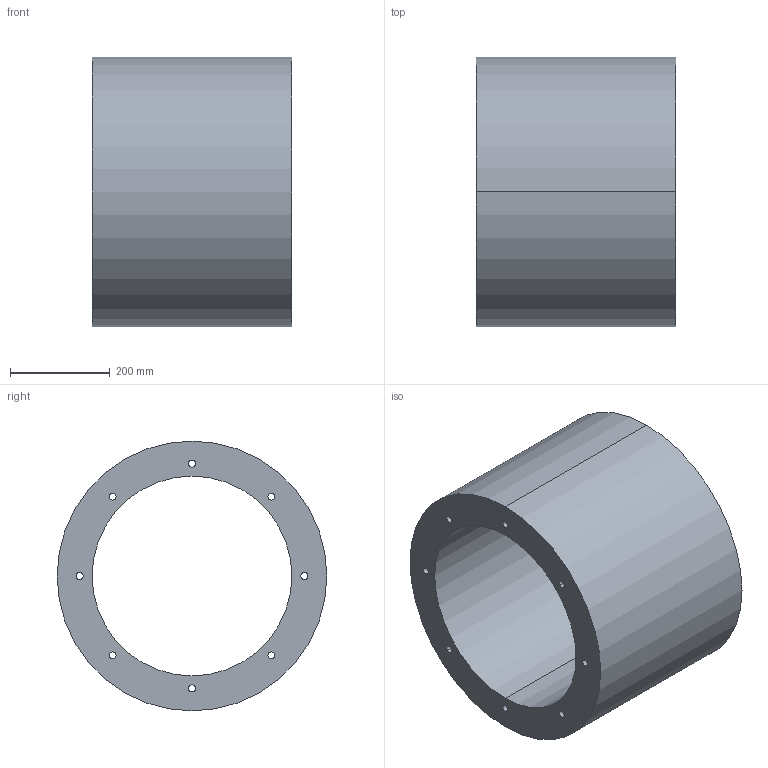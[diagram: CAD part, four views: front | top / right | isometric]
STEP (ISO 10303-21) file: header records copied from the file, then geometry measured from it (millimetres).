
FILE_DESCRIPTION(('STEP AP214'),'1');
FILE_NAME('accessory_5211809900.stp','2017-10-09T11:36:35',('TraceParts'),('TraceParts S.A.'),'Spatial InterOp 3D',' ',' ');
FILE_SCHEMA(('automotive_design'));
Length unit declared in the file: millimetre
Products named in the file (1): accessory_5211809900
Bounding box: 400 x 540 x 540 mm (x, y, z)
Volume: 40850757.6 mm3; surface area: 1526236 mm2
Topology: 1 solids, 1 shells, 22 faces, 60 edges, 40 vertices
Faces by surface type: cylinder 20, plane 2
Entity records: 952 total; most frequent: DIRECTION 146, CARTESIAN_POINT 123, ORIENTED_EDGE 120, AXIS2_PLACEMENT_3D 63, EDGE_CURVE 60, EDGE_LOOP 40, VERTEX_POINT 40, CIRCLE 40
